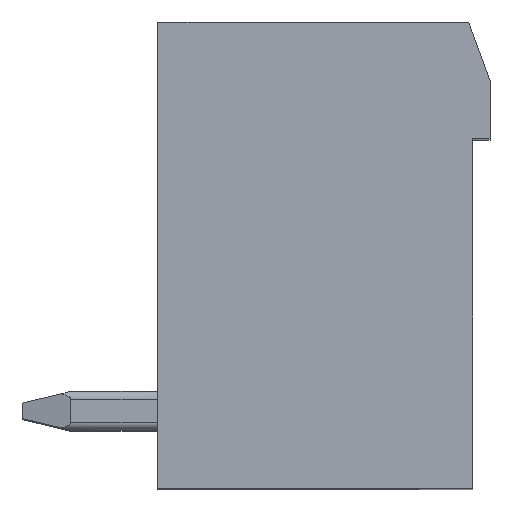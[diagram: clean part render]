
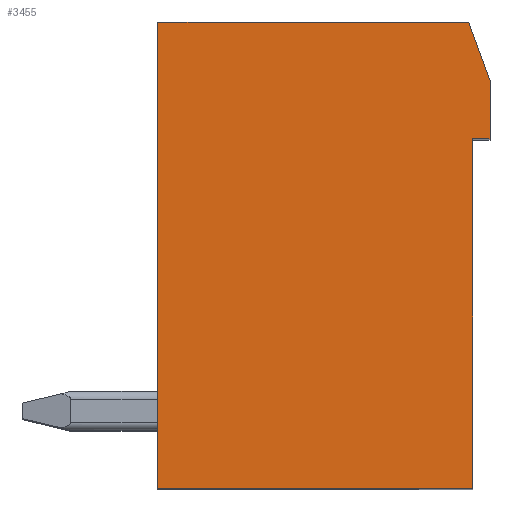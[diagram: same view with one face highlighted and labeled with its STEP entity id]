
A CAD part, top view. The second image highlights one B-rep face of the part: STEP entity #3455.
In plain terms, the highlighted planar face has unit normal (0, 0, 1).
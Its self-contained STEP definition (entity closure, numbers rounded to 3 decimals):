
#824=DIRECTION('',(0.,1.,0.));
#825=VECTOR('',#824,12.);
#826=CARTESIAN_POINT('',(0.,0.,-12.99));
#827=LINE('',#826,#825);
#828=DIRECTION('',(1.,0.,0.));
#829=VECTOR('',#828,8.);
#830=CARTESIAN_POINT('',(0.,12.,-12.99));
#831=LINE('',#830,#829);
#832=DIRECTION('',(0.344,-0.939,0.));
#833=VECTOR('',#832,1.598);
#834=CARTESIAN_POINT('',(8.,12.,-12.99));
#835=LINE('',#834,#833);
#836=DIRECTION('',(0.,-1.,0.));
#837=VECTOR('',#836,1.5);
#838=CARTESIAN_POINT('',(8.55,10.5,-12.99));
#839=LINE('',#838,#837);
#840=DIRECTION('',(-1.,0.,0.));
#841=VECTOR('',#840,0.45);
#842=CARTESIAN_POINT('',(8.55,9.,-12.99));
#843=LINE('',#842,#841);
#844=DIRECTION('',(0.,-1.,0.));
#845=VECTOR('',#844,9.);
#846=CARTESIAN_POINT('',(8.1,9.,-12.99));
#847=LINE('',#846,#845);
#848=DIRECTION('',(-1.,0.,0.));
#849=VECTOR('',#848,8.1);
#850=CARTESIAN_POINT('',(8.1,0.,-12.99));
#851=LINE('',#850,#849);
#1864=CARTESIAN_POINT('',(0.,12.,-12.99));
#1865=VERTEX_POINT('',#1864);
#1866=CARTESIAN_POINT('',(0.,0.,-12.99));
#1867=VERTEX_POINT('',#1866);
#1914=CARTESIAN_POINT('',(8.1,0.,-12.99));
#1915=VERTEX_POINT('',#1914);
#1991=CARTESIAN_POINT('',(8.,12.,-12.99));
#1992=VERTEX_POINT('',#1991);
#1995=CARTESIAN_POINT('',(8.55,9.,-12.99));
#1996=VERTEX_POINT('',#1995);
#1997=CARTESIAN_POINT('',(8.55,10.5,-12.99));
#1998=VERTEX_POINT('',#1997);
#2009=CARTESIAN_POINT('',(8.1,9.,-12.99));
#2010=VERTEX_POINT('',#2009);
#3440=CARTESIAN_POINT('',(10.545,12.,-12.99));
#3441=DIRECTION('',(0.,0.,-1.));
#3442=DIRECTION('',(-1.,0.,0.));
#3443=AXIS2_PLACEMENT_3D('',#3440,#3441,#3442);
#3444=PLANE('',#3443);
#3445=ORIENTED_EDGE('',*,*,#2355,.T.);
#3446=ORIENTED_EDGE('',*,*,#3367,.T.);
#3448=ORIENTED_EDGE('',*,*,#3447,.T.);
#3449=ORIENTED_EDGE('',*,*,#3395,.T.);
#3450=ORIENTED_EDGE('',*,*,#3421,.T.);
#3451=ORIENTED_EDGE('',*,*,#3434,.T.);
#3452=ORIENTED_EDGE('',*,*,#2435,.T.);
#3453=EDGE_LOOP('',(#3445,#3446,#3448,#3449,#3450,#3451,#3452));
#3454=FACE_OUTER_BOUND('',#3453,.F.);
#3455=ADVANCED_FACE('',(#3454),#3444,.F.);
#2355=EDGE_CURVE('',#1867,#1865,#827,.T.);
#2435=EDGE_CURVE('',#1915,#1867,#851,.T.);
#3367=EDGE_CURVE('',#1865,#1992,#831,.T.);
#3395=EDGE_CURVE('',#1998,#1996,#839,.T.);
#3421=EDGE_CURVE('',#1996,#2010,#843,.T.);
#3434=EDGE_CURVE('',#2010,#1915,#847,.T.);
#3447=EDGE_CURVE('',#1992,#1998,#835,.T.);
